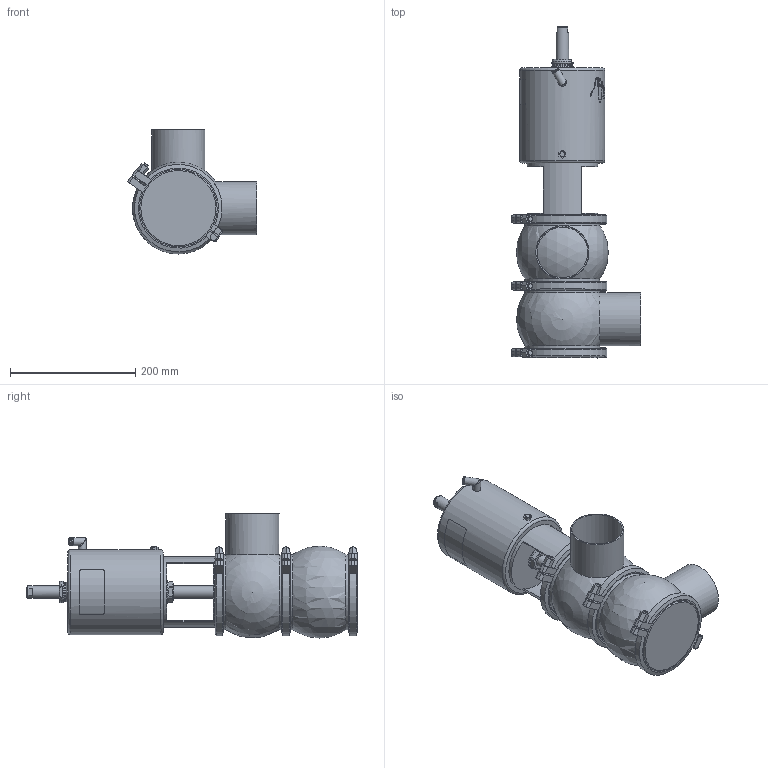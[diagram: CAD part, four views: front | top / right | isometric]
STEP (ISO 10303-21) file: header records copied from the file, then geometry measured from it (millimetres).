
FILE_DESCRIPTION (( 'STEP AP214' ), '1' );
FILE_NAME ('INNOVA M D W DIN 080 T3 AS NC_10.241.16.0010.STEP', '2024-08-07T07:56:19', ( '' ), ( '' ), 'SwSTEP 2.0', 'SolidWorks 2023', '' );
FILE_SCHEMA (( 'AUTOMOTIVE_DESIGN' ));
Length unit declared in the file: millimetre
Products named in the file (6): 10.240.15.0001_DN 080; 10.240.15.0014_T3 AS P180; 10.241.15.0001_DIN 080; INNOVA M D W DIN 080 T3 AS NC_10.241.16.0010; 10.240.15.0010_DN 080; 10.240.15.0006_DIN 080
Assembly tree (8 placements, depth 2):
  INNOVA M D W DIN 080 T3 AS NC_10.241.16.0010
    10.240.15.0006_DIN 080  x2
    10.240.15.0010_DN 080
    10.240.15.0014_T3 AS P180
    10.240.15.0001_DN 080  x3
    10.241.15.0001_DIN 080
Bounding box: 206.43 x 530.63 x 198.5 mm (x, y, z)
Volume: 5831938.3 mm3; surface area: 499122.3 mm2
Topology: 9 solids, 9 shells, 459 faces, 1223 edges, 797 vertices
Faces by surface type: plane 225, cylinder 110, bspline 80, cone 36, sphere 4, torus 4
Full cylindrical faces by diameter (mm): 6.15 x1, 8 x7, 8.5 x1, 10.5 x1, 12.5 x3, 16 x1, 20 x2, 31 x1, 34.5 x2, 36.5 x1, 81 x2, 85 x2, 113 x1, 120 x5, 132 x6, 136 x1
Entity records: 20405 total; most frequent: CARTESIAN_POINT 11284, ORIENTED_EDGE 1598, DIRECTION 1207, EDGE_CURVE 799, VERTEX_POINT 548, AXIS2_PLACEMENT_3D 459, EDGE_LOOP 397, FACE_OUTER_BOUND 359
